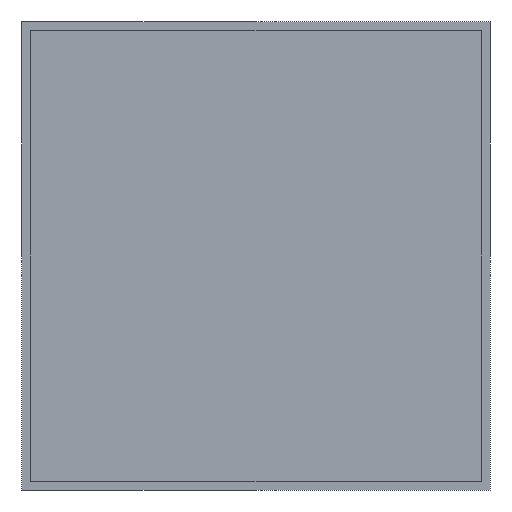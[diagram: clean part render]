
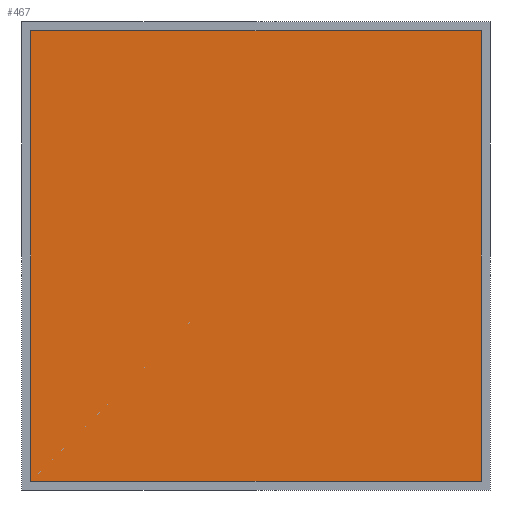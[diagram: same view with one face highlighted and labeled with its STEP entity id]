
A CAD part, front view. The second image highlights one B-rep face of the part: STEP entity #467.
In plain terms, the highlighted planar face has unit normal (0, -1, 0).
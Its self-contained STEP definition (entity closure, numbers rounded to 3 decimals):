
#3 = VECTOR ( 'NONE', #214, 1000. ) ;
#24 = ORIENTED_EDGE ( 'NONE', *, *, #623, .T. ) ;
#30 = VECTOR ( 'NONE', #444, 1000. ) ;
#50 = CARTESIAN_POINT ( 'NONE',  ( -57.7, 5., 57.7 ) ) ;
#55 = VECTOR ( 'NONE', #134, 1000. ) ;
#134 = DIRECTION ( 'NONE',  ( -1., 0., 0. ) ) ;
#151 = LINE ( 'NONE', #612, #3 ) ;
#152 = DIRECTION ( 'NONE',  ( 0., -1., 0. ) ) ;
#154 = ORIENTED_EDGE ( 'NONE', *, *, #307, .T. ) ;
#208 = CARTESIAN_POINT ( 'NONE',  ( 57.7, 5., -57.7 ) ) ;
#213 = VERTEX_POINT ( 'NONE', #289 ) ;
#214 = DIRECTION ( 'NONE',  ( 0., 0., -1. ) ) ;
#249 = VERTEX_POINT ( 'NONE', #508 ) ;
#262 = EDGE_LOOP ( 'NONE', ( #547, #154, #388, #24 ) ) ;
#274 = CARTESIAN_POINT ( 'NONE',  ( 57.7, 5., -57.7 ) ) ;
#277 = AXIS2_PLACEMENT_3D ( 'NONE', #447, #152, #609 ) ;
#284 = CARTESIAN_POINT ( 'NONE',  ( -57.7, 5., -57.7 ) ) ;
#289 = CARTESIAN_POINT ( 'NONE',  ( 57.7, 5., -57.7 ) ) ;
#307 = EDGE_CURVE ( 'NONE', #412, #213, #551, .T. ) ;
#320 = EDGE_CURVE ( 'NONE', #324, #412, #151, .T. ) ;
#324 = VERTEX_POINT ( 'NONE', #50 ) ;
#360 = LINE ( 'NONE', #642, #55 ) ;
#388 = ORIENTED_EDGE ( 'NONE', *, *, #482, .T. ) ;
#406 = FACE_OUTER_BOUND ( 'NONE', #262, .T. ) ;
#412 = VERTEX_POINT ( 'NONE', #284 ) ;
#444 = DIRECTION ( 'NONE',  ( 0., 0., 1. ) ) ;
#447 = CARTESIAN_POINT ( 'NONE',  ( 0., 5., 0. ) ) ;
#463 = VECTOR ( 'NONE', #554, 1000. ) ;
#467 = ADVANCED_FACE ( 'NONE', ( #406 ), #560, .T. ) ;
#482 = EDGE_CURVE ( 'NONE', #213, #249, #494, .T. ) ;
#494 = LINE ( 'NONE', #208, #30 ) ;
#508 = CARTESIAN_POINT ( 'NONE',  ( 57.7, 5., 57.7 ) ) ;
#547 = ORIENTED_EDGE ( 'NONE', *, *, #320, .T. ) ;
#551 = LINE ( 'NONE', #274, #463 ) ;
#554 = DIRECTION ( 'NONE',  ( 1., 0., 0. ) ) ;
#560 = PLANE ( 'NONE',  #277 ) ;
#609 = DIRECTION ( 'NONE',  ( 1., 0., 0. ) ) ;
#612 = CARTESIAN_POINT ( 'NONE',  ( -57.7, 5., -57.7 ) ) ;
#623 = EDGE_CURVE ( 'NONE', #249, #324, #360, .T. ) ;
#642 = CARTESIAN_POINT ( 'NONE',  ( 57.7, 5., 57.7 ) ) ;
